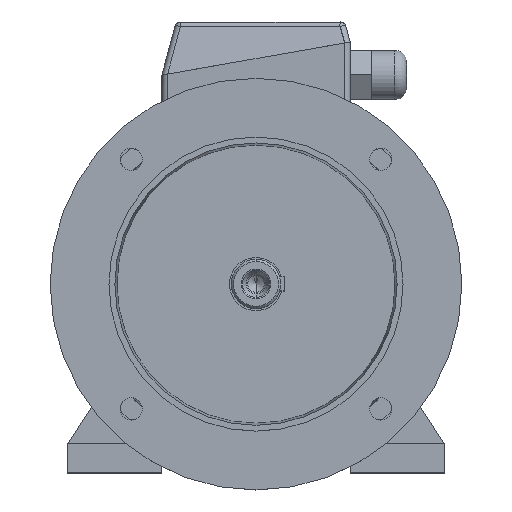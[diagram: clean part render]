
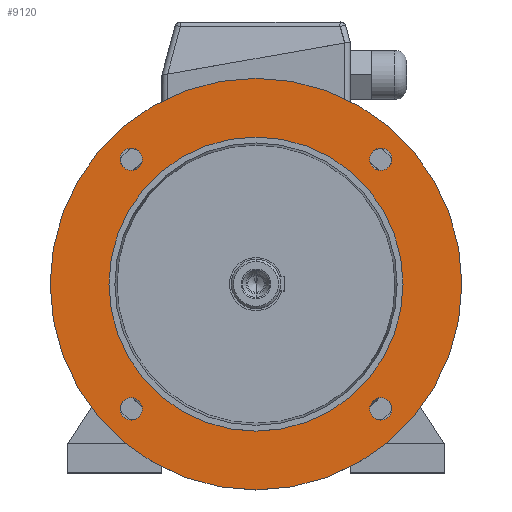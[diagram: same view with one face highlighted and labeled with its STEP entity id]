
A CAD part, top view. The second image highlights one B-rep face of the part: STEP entity #9120.
In plain terms, the highlighted planar face has unit normal (0, 0, 1).
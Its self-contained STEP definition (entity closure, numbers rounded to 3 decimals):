
#30 = VERTEX_POINT ( 'NONE', #10542 ) ;
#31 = EDGE_LOOP ( 'NONE', ( #1280, #9629 ) ) ;
#32 = EDGE_CURVE ( 'NONE', #2403, #7029, #10543, .T. ) ;
#139 = ORIENTED_EDGE ( 'NONE', *, *, #32, .F. ) ;
#140 = CARTESIAN_POINT ( 'NONE',  ( -115.566, 106.066, 75. ) ) ;
#141 = CARTESIAN_POINT ( 'NONE',  ( -115.566, -106.066, 75. ) ) ;
#158 = EDGE_CURVE ( 'NONE', #1141, #16050, #10592, .T. ) ;
#283 = EDGE_CURVE ( 'NONE', #30, #15927, #10659, .T. ) ;
#463 = ORIENTED_EDGE ( 'NONE', *, *, #2668, .F. ) ;
#784 = CIRCLE ( 'NONE', #785, 9.5 ) ;
#785 = AXIS2_PLACEMENT_3D ( 'NONE', #786, #787, #788 ) ;
#786 = CARTESIAN_POINT ( 'NONE',  ( 106.066, 106.066, 75. ) ) ;
#787 = DIRECTION ( 'NONE',  ( 0., 0., 1. ) ) ;
#788 = DIRECTION ( 'NONE',  ( 1., 0., 0. ) ) ;
#880 = EDGE_CURVE ( 'NONE', #5648, #7028, #10969, .T. ) ;
#1141 = VERTEX_POINT ( 'NONE', #11078 ) ;
#1280 = ORIENTED_EDGE ( 'NONE', *, *, #880, .F. ) ;
#1399 = FACE_BOUND ( 'NONE', #9059, .T. ) ;
#1400 = FACE_BOUND ( 'NONE', #11281, .T. ) ;
#1401 = FACE_BOUND ( 'NONE', #10238, .T. ) ;
#1402 = FACE_OUTER_BOUND ( 'NONE', #9847, .T. ) ;
#1417 = FACE_BOUND ( 'NONE', #11005, .T. ) ;
#1418 = FACE_BOUND ( 'NONE', #31, .T. ) ;
#1419 = PLANE ( 'NONE',  #1420 ) ;
#1420 = AXIS2_PLACEMENT_3D ( 'NONE', #1421, #1422, #1423 ) ;
#1421 = CARTESIAN_POINT ( 'NONE',  ( 0., 175., 75. ) ) ;
#1422 = DIRECTION ( 'NONE',  ( 0., 0., -1. ) ) ;
#1423 = DIRECTION ( 'NONE',  ( -1., 0., 0. ) ) ;
#2403 = VERTEX_POINT ( 'NONE', #11797 ) ;
#2668 = EDGE_CURVE ( 'NONE', #7029, #2403, #11988, .T. ) ;
#2962 = CARTESIAN_POINT ( 'NONE',  ( -125., 0., 75. ) ) ;
#3052 = CARTESIAN_POINT ( 'NONE',  ( 115.566, 106.066, 75. ) ) ;
#4293 = CIRCLE ( 'NONE', #4294, 125. ) ;
#4294 = AXIS2_PLACEMENT_3D ( 'NONE', #4295, #4296, #4297 ) ;
#4295 = CARTESIAN_POINT ( 'NONE',  ( 0., 0., 75. ) ) ;
#4296 = DIRECTION ( 'NONE',  ( 0., 0., 1. ) ) ;
#4297 = DIRECTION ( 'NONE',  ( 1., 0., 0. ) ) ;
#5442 = CIRCLE ( 'NONE', #5443, 9.5 ) ;
#5443 = AXIS2_PLACEMENT_3D ( 'NONE', #5444, #5445, #5446 ) ;
#5444 = CARTESIAN_POINT ( 'NONE',  ( 106.066, -106.066, 75. ) ) ;
#5445 = DIRECTION ( 'NONE',  ( 0., 0., 1. ) ) ;
#5446 = DIRECTION ( 'NONE',  ( 1., 0., 0. ) ) ;
#5648 = VERTEX_POINT ( 'NONE', #15550 ) ;
#5893 = EDGE_CURVE ( 'NONE', #7028, #5648, #15675, .T. ) ;
#5988 = CIRCLE ( 'NONE', #5989, 175. ) ;
#5989 = AXIS2_PLACEMENT_3D ( 'NONE', #5990, #5991, #5992 ) ;
#5990 = CARTESIAN_POINT ( 'NONE',  ( 0., 0., 75. ) ) ;
#5991 = DIRECTION ( 'NONE',  ( 0., 0., 1. ) ) ;
#5992 = DIRECTION ( 'NONE',  ( 1., 0., 0. ) ) ;
#6321 = VERTEX_POINT ( 'NONE', #15958 ) ;
#7028 = VERTEX_POINT ( 'NONE', #140 ) ;
#7029 = VERTEX_POINT ( 'NONE', #141 ) ;
#7411 = CARTESIAN_POINT ( 'NONE',  ( 115.566, -106.066, 75. ) ) ;
#7553 = CIRCLE ( 'NONE', #7554, 9.5 ) ;
#7554 = AXIS2_PLACEMENT_3D ( 'NONE', #7555, #7556, #7557 ) ;
#7555 = CARTESIAN_POINT ( 'NONE',  ( 106.066, -106.066, 75. ) ) ;
#7556 = DIRECTION ( 'NONE',  ( 0., 0., 1. ) ) ;
#7557 = DIRECTION ( 'NONE',  ( 1., 0., 0. ) ) ;
#8114 = CIRCLE ( 'NONE', #8115, 175. ) ;
#8115 = AXIS2_PLACEMENT_3D ( 'NONE', #8116, #8117, #8118 ) ;
#8116 = CARTESIAN_POINT ( 'NONE',  ( 0., 0., 75. ) ) ;
#8117 = DIRECTION ( 'NONE',  ( 0., 0., 1. ) ) ;
#8118 = DIRECTION ( 'NONE',  ( 1., 0., 0. ) ) ;
#8134 = EDGE_CURVE ( 'NONE', #16050, #1141, #784, .T. ) ;
#8461 = CARTESIAN_POINT ( 'NONE',  ( 96.566, -106.066, 75. ) ) ;
#8462 = CARTESIAN_POINT ( 'NONE',  ( -175., 0., 75. ) ) ;
#8546 = ORIENTED_EDGE ( 'NONE', *, *, #8134, .F. ) ;
#9059 = EDGE_LOOP ( 'NONE', ( #8546, #11555 ) ) ;
#9120 = ADVANCED_FACE ( 'NONE', ( #1399, #1400, #1401, #1402, #1417, #1418 ), #1419, .F. ) ;
#9629 = ORIENTED_EDGE ( 'NONE', *, *, #5893, .F. ) ;
#9716 = ORIENTED_EDGE ( 'NONE', *, *, #13567, .T. ) ;
#9847 = EDGE_LOOP ( 'NONE', ( #9716, #11704 ) ) ;
#9915 = EDGE_CURVE ( 'NONE', #15927, #30, #4293, .T. ) ;
#10003 = ORIENTED_EDGE ( 'NONE', *, *, #9915, .F. ) ;
#10115 = ORIENTED_EDGE ( 'NONE', *, *, #283, .F. ) ;
#10238 = EDGE_LOOP ( 'NONE', ( #10115, #10003 ) ) ;
#10312 = ORIENTED_EDGE ( 'NONE', *, *, #13330, .F. ) ;
#10455 = EDGE_CURVE ( 'NONE', #13085, #14334, #5442, .T. ) ;
#10542 = CARTESIAN_POINT ( 'NONE',  ( 125., 0., 75. ) ) ;
#10543 = CIRCLE ( 'NONE', #10544, 9.5 ) ;
#10544 = AXIS2_PLACEMENT_3D ( 'NONE', #10545, #10546, #10547 ) ;
#10545 = CARTESIAN_POINT ( 'NONE',  ( -106.066, -106.066, 75. ) ) ;
#10546 = DIRECTION ( 'NONE',  ( 0., 0., 1. ) ) ;
#10547 = DIRECTION ( 'NONE',  ( 1., 0., 0. ) ) ;
#10592 = CIRCLE ( 'NONE', #10593, 9.5 ) ;
#10593 = AXIS2_PLACEMENT_3D ( 'NONE', #10600, #10601, #10602 ) ;
#10600 = CARTESIAN_POINT ( 'NONE',  ( 106.066, 106.066, 75. ) ) ;
#10601 = DIRECTION ( 'NONE',  ( 0., 0., 1. ) ) ;
#10602 = DIRECTION ( 'NONE',  ( 1., 0., 0. ) ) ;
#10659 = CIRCLE ( 'NONE', #10660, 125. ) ;
#10660 = AXIS2_PLACEMENT_3D ( 'NONE', #10661, #10662, #10663 ) ;
#10661 = CARTESIAN_POINT ( 'NONE',  ( 0., 0., 75. ) ) ;
#10662 = DIRECTION ( 'NONE',  ( 0., 0., 1. ) ) ;
#10663 = DIRECTION ( 'NONE',  ( 1., 0., 0. ) ) ;
#10678 = ORIENTED_EDGE ( 'NONE', *, *, #10455, .F. ) ;
#10969 = CIRCLE ( 'NONE', #10970, 9.5 ) ;
#10970 = AXIS2_PLACEMENT_3D ( 'NONE', #10971, #10972, #10973 ) ;
#10971 = CARTESIAN_POINT ( 'NONE',  ( -106.066, 106.066, 75. ) ) ;
#10972 = DIRECTION ( 'NONE',  ( 0., 0., 1. ) ) ;
#10973 = DIRECTION ( 'NONE',  ( 1., 0., 0. ) ) ;
#11005 = EDGE_LOOP ( 'NONE', ( #139, #463 ) ) ;
#11078 = CARTESIAN_POINT ( 'NONE',  ( 96.566, 106.066, 75. ) ) ;
#11281 = EDGE_LOOP ( 'NONE', ( #10678, #10312 ) ) ;
#11282 = EDGE_CURVE ( 'NONE', #14335, #6321, #5988, .T. ) ;
#11555 = ORIENTED_EDGE ( 'NONE', *, *, #158, .F. ) ;
#11704 = ORIENTED_EDGE ( 'NONE', *, *, #11282, .T. ) ;
#11797 = CARTESIAN_POINT ( 'NONE',  ( -96.566, -106.066, 75. ) ) ;
#11988 = CIRCLE ( 'NONE', #11989, 9.5 ) ;
#11989 = AXIS2_PLACEMENT_3D ( 'NONE', #11990, #11991, #11992 ) ;
#11990 = CARTESIAN_POINT ( 'NONE',  ( -106.066, -106.066, 75. ) ) ;
#11991 = DIRECTION ( 'NONE',  ( 0., 0., 1. ) ) ;
#11992 = DIRECTION ( 'NONE',  ( 1., 0., 0. ) ) ;
#13085 = VERTEX_POINT ( 'NONE', #7411 ) ;
#13330 = EDGE_CURVE ( 'NONE', #14334, #13085, #7553, .T. ) ;
#13567 = EDGE_CURVE ( 'NONE', #6321, #14335, #8114, .T. ) ;
#14334 = VERTEX_POINT ( 'NONE', #8461 ) ;
#14335 = VERTEX_POINT ( 'NONE', #8462 ) ;
#15550 = CARTESIAN_POINT ( 'NONE',  ( -96.566, 106.066, 75. ) ) ;
#15675 = CIRCLE ( 'NONE', #15676, 9.5 ) ;
#15676 = AXIS2_PLACEMENT_3D ( 'NONE', #15677, #15683, #15684 ) ;
#15677 = CARTESIAN_POINT ( 'NONE',  ( -106.066, 106.066, 75. ) ) ;
#15683 = DIRECTION ( 'NONE',  ( 0., 0., 1. ) ) ;
#15684 = DIRECTION ( 'NONE',  ( 1., 0., 0. ) ) ;
#15927 = VERTEX_POINT ( 'NONE', #2962 ) ;
#15958 = CARTESIAN_POINT ( 'NONE',  ( 175., 0., 75. ) ) ;
#16050 = VERTEX_POINT ( 'NONE', #3052 ) ;
